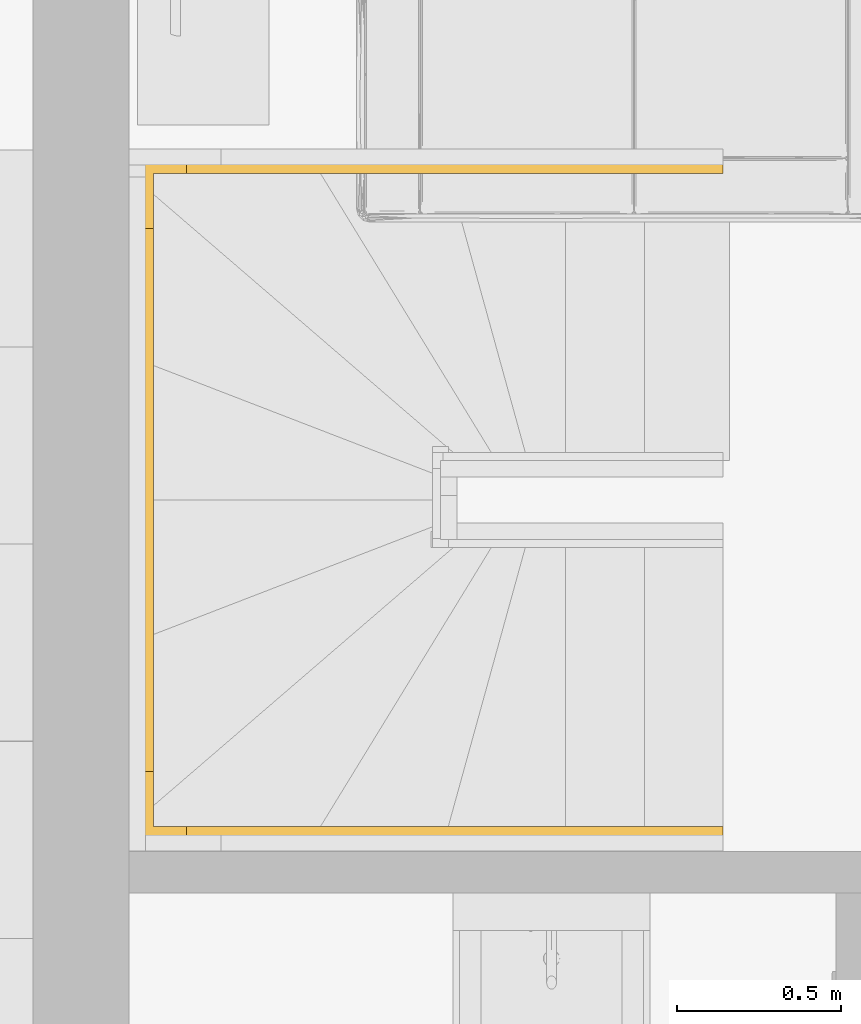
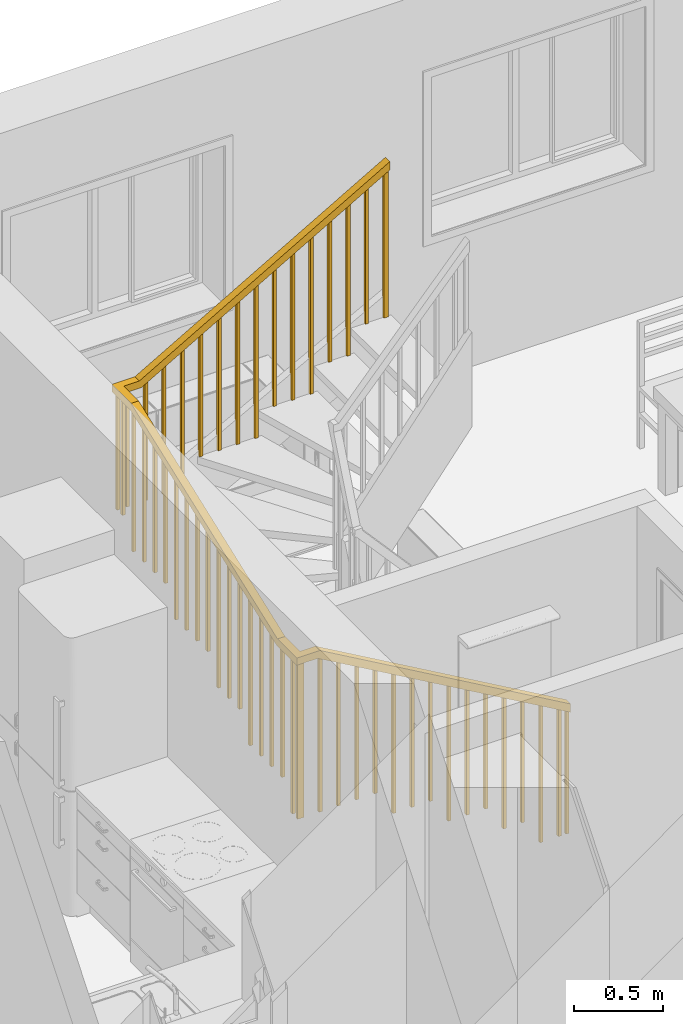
# One storey, part 25 of 65: 1 railing, 1 element without a shape of its own.
"""IFC2X3 building model written with IfcOpenShell, lengths in millimetres."""

from ifc_helpers import new_model, entity, si_unit, converted_unit, direction, frame, origin, place, context, subcontext, project, spatial, faceted_brep, material, type_object, element, aggregate, save


model = new_model("IFC2X3")

# Units and contexts
model_context = context("Model", 3, precision=0.01, world=origin(), true_north=direction((0.0, 1.0)))
body_context = subcontext(model_context, "Body", "Model", "MODEL_VIEW")
ifc_project = project(units=[si_unit("LENGTHUNIT", "METRE", prefix="MILLI"), si_unit("AREAUNIT", "SQUARE_METRE"), si_unit("VOLUMEUNIT", "CUBIC_METRE"), converted_unit("PLANEANGLEUNIT", "DEGREE", entity("IfcPlaneAngleMeasure", 0.017453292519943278), si_unit("PLANEANGLEUNIT", "RADIAN"), dimensions=[0, 0, 0, 0, 0, 0, 0])], contexts=[model_context])

# Site, building, storey
site_placement = place(None, origin())
site = spatial("IfcSite", under=ifc_project, at=site_placement, Name="Default", CompositionType="ELEMENT")
building_placement = place(site_placement, origin())
building = spatial("IfcBuilding", under=site, at=building_placement, CompositionType="ELEMENT")
storey_placement = place(building_placement, origin())
storey = spatial("IfcBuildingStorey", under=building, at=storey_placement, Name="Et. 1", CompositionType="ELEMENT", Elevation=0.0)

# Stair, railing
type_product = type_object("IfcTypeProduct", Name="Assembled Stair:Tretrapp - Åpne trinn m/ vanger")
stair_placement = place(storey_placement, origin())
stair = element("IfcStair", 1, at=stair_placement, inside=storey, type_object=type_product, Name="Assembled Stair:Stair", ShapeType="NOTDEFINED")
ifc_material = material(Name="Metall - Malt - MØRK GRÅ MATT")
railing_type = type_object("IfcRailingType", Name="Railing:900mm", PredefinedType="NOTDEFINED")
railing_placement = place(stair_placement, frame((16349.457407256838, 13245.55178763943, 178.73333333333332)))
railing = element("IfcRailing", 2, at=railing_placement, type_object=railing_type, material=ifc_material, Name="Railing:900mm", PredefinedType="NOTDEFINED", context=body_context, shape_type="Brep", body=[
    faceted_brep([(1755.0, 2054.1999999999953, 3334.94499683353), (1755.0, 2074.1999999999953, 3334.94499683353), (1755.0, 2074.1999999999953, 2323.5333333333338), (1755.0, 2054.1999999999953, 2323.5333333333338), (1775.0, 2074.1999999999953, 3346.4569725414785), (1775.0, 2074.1999999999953, 2323.5333333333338), (1775.0, 2054.1999999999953, 3346.4569725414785), (1775.0, 2054.1999999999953, 2323.5333333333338)], [[[0, 1, 2, 3]], [[1, 4, 5, 2]], [[4, 6, 7, 5]], [[3, 7, 6, 0]], [[0, 6, 4, 1]], [[2, 5, 7, 3]]]),
    faceted_brep([(1635.0, 2054.1999999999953, 3265.8731425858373), (1635.0, 2074.1999999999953, 3265.8731425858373), (1635.0, 2074.1999999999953, 2323.5333333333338), (1635.0, 2054.1999999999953, 2323.5333333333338), (1655.0, 2074.1999999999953, 3277.385118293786), (1655.0, 2074.1999999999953, 2323.5333333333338), (1655.0, 2054.1999999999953, 3277.385118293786), (1655.0, 2054.1999999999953, 2323.5333333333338)], [[[0, 1, 2, 3]], [[1, 4, 5, 2]], [[4, 6, 7, 5]], [[3, 7, 6, 0]], [[0, 6, 4, 1]], [[2, 5, 7, 3]]]),
    faceted_brep([(1515.0, 2054.1999999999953, 3196.801288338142), (1515.0, 2074.1999999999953, 3196.8012883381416), (1515.0, 2074.1999999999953, 2144.8), (1515.0, 2054.1999999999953, 2144.8000000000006), (1535.0, 2074.1999999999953, 3208.313264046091), (1535.0, 2074.1999999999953, 2144.8), (1535.0, 2054.1999999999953, 3208.313264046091), (1535.0, 2054.1999999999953, 2144.8)], [[[0, 1, 2, 3]], [[1, 4, 5, 2]], [[4, 6, 7, 5]], [[3, 7, 6, 0]], [[0, 6, 4, 1]], [[2, 5, 7, 3]]]),
    faceted_brep([(1395.0, 2054.199999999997, 3127.72943409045), (1395.0, 2074.199999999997, 3127.72943409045), (1395.0, 2074.199999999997, 2144.8000000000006), (1395.0, 2054.199999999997, 2144.8000000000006), (1415.0, 2074.199999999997, 3139.241409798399), (1415.0, 2074.199999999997, 2144.8000000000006), (1415.0, 2054.199999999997, 3139.241409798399), (1415.0, 2054.199999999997, 2144.8000000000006)], [[[0, 1, 2, 3]], [[1, 4, 5, 2]], [[4, 6, 7, 5]], [[3, 7, 6, 0]], [[0, 6, 4, 1]], [[2, 5, 7, 3]]]),
    faceted_brep([(1275.0, 2054.199999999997, 3058.6575798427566), (1275.0, 2074.199999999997, 3058.6575798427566), (1275.0, 2074.199999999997, 1966.0666666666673), (1275.0, 2054.199999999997, 1966.0666666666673), (1295.0, 2074.199999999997, 3070.169555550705), (1295.0, 2074.199999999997, 1966.0666666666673), (1295.0, 2054.199999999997, 3070.169555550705), (1295.0, 2054.199999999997, 1966.0666666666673)], [[[0, 1, 2, 3]], [[1, 4, 5, 2]], [[4, 6, 7, 5]], [[3, 7, 6, 0]], [[0, 6, 4, 1]], [[2, 5, 7, 3]]]),
    faceted_brep([(1155.0, 2054.199999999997, 2989.585725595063), (1155.0, 2074.199999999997, 2989.585725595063), (1155.0, 2074.199999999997, 1966.0666666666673), (1155.0, 2054.199999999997, 1966.0666666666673), (1175.0, 2074.199999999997, 3001.097701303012), (1175.0, 2074.199999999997, 1966.0666666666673), (1175.0, 2054.199999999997, 3001.097701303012), (1175.0, 2054.199999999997, 1966.0666666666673)], [[[0, 1, 2, 3]], [[1, 4, 5, 2]], [[4, 6, 7, 5]], [[3, 7, 6, 0]], [[0, 6, 4, 1]], [[2, 5, 7, 3]]]),
    faceted_brep([(1035.0, 2054.199999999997, 2920.5138713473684), (1035.0, 2074.199999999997, 2920.5138713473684), (1035.0, 2074.199999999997, 1966.0666666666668), (1035.0, 2054.199999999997, 1966.0666666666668), (1055.0, 2074.199999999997, 2932.0258470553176), (1055.0, 2074.199999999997, 1966.0666666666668), (1055.0, 2054.199999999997, 2932.0258470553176), (1055.0, 2054.199999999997, 1966.0666666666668)], [[[0, 1, 2, 3]], [[1, 4, 5, 2]], [[4, 6, 7, 5]], [[3, 7, 6, 0]], [[0, 6, 4, 1]], [[2, 5, 7, 3]]]),
    faceted_brep([(915.0, 2054.199999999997, 2851.4420170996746), (915.0, 2074.199999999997, 2851.4420170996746), (915.0, 2074.199999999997, 1787.3333333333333), (915.0, 2054.199999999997, 1787.3333333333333), (935.0, 2074.199999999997, 2862.953992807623), (935.0, 2074.199999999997, 1787.3333333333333), (935.0, 2054.199999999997, 2862.953992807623), (935.0, 2054.199999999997, 1787.3333333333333)], [[[0, 1, 2, 3]], [[1, 4, 5, 2]], [[4, 6, 7, 5]], [[3, 7, 6, 0]], [[0, 6, 4, 1]], [[2, 5, 7, 3]]]),
    faceted_brep([(795.0, 2054.2000000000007, 2782.3701628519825), (795.0, 2074.199999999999, 2782.3701628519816), (795.0, 2074.199999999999, 1787.333333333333), (795.0, 2054.2000000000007, 1787.333333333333), (815.0, 2074.199999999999, 2793.882138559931), (815.0, 2074.199999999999, 1787.333333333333), (815.0, 2054.2000000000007, 2793.882138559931), (815.0, 2054.2000000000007, 1787.333333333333)], [[[0, 1, 2, 3]], [[1, 4, 5, 2]], [[4, 6, 7, 5]], [[3, 7, 6, 0]], [[0, 6, 4, 1]], [[2, 5, 7, 3]]]),
    faceted_brep([(675.0, 2054.2000000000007, 2713.2983086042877), (675.0, 2074.199999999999, 2713.2983086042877), (675.0, 2074.199999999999, 1787.333333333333), (675.0, 2054.2000000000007, 1787.333333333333), (695.0, 2074.199999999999, 2724.810284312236), (695.0, 2074.199999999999, 1787.333333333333), (695.0, 2054.2000000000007, 2724.810284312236), (695.0, 2054.2000000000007, 1787.333333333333)], [[[0, 1, 2, 3]], [[1, 4, 5, 2]], [[4, 6, 7, 5]], [[3, 7, 6, 0]], [[0, 6, 4, 1]], [[2, 5, 7, 3]]]),
    faceted_brep([(555.0, 2054.2000000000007, 2644.226454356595), (555.0, 2074.199999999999, 2644.2264543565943), (555.0, 2074.199999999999, 1787.3333333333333), (555.0, 2054.2000000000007, 1787.3333333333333), (575.0, 2074.199999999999, 2655.7384300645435), (575.0, 2074.199999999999, 1787.3333333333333), (575.0, 2054.2000000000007, 2655.7384300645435), (575.0, 2054.2000000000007, 1787.3333333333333)], [[[0, 1, 2, 3]], [[1, 4, 5, 2]], [[4, 6, 7, 5]], [[3, 7, 6, 0]], [[0, 6, 4, 1]], [[2, 5, 7, 3]]]),
    faceted_brep([(435.0, 2054.2000000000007, 2575.1546001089), (435.0, 2074.199999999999, 2575.1546001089), (435.0, 2074.199999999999, 1608.5999999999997), (435.0, 2054.2000000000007, 1608.5999999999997), (455.0, 2074.199999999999, 2586.666575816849), (455.0, 2074.199999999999, 1608.5999999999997), (455.0, 2054.2000000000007, 2586.666575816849), (455.0, 2054.2000000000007, 1608.5999999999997)], [[[0, 1, 2, 3]], [[1, 4, 5, 2]], [[4, 6, 7, 5]], [[3, 7, 6, 0]], [[0, 6, 4, 1]], [[2, 5, 7, 3]]]),
    faceted_brep([(315.0, 2054.2000000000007, 2506.082745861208), (315.0, 2074.199999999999, 2506.0827458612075), (315.0, 2074.199999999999, 1608.5999999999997), (315.0, 2054.2000000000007, 1608.5999999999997), (335.0, 2074.199999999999, 2517.5947215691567), (335.0, 2074.199999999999, 1608.5999999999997), (335.0, 2054.2000000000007, 2517.5947215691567), (335.0, 2054.2000000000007, 1608.5999999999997)], [[[0, 1, 2, 3]], [[1, 4, 5, 2]], [[4, 6, 7, 5]], [[3, 7, 6, 0]], [[0, 6, 4, 1]], [[2, 5, 7, 3]]]),
    faceted_brep([(195.0, 2054.2000000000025, 2437.0108916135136), (195.0, 2074.2000000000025, 2437.0108916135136), (195.0, 2074.2000000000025, 1608.5999999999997), (195.0, 2054.2000000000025, 1608.5999999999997), (215.0, 2074.2000000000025, 2448.522867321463), (215.0, 2074.2000000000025, 1608.5999999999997), (215.0, 2054.2000000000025, 2448.522867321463), (215.0, 2054.2000000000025, 1608.5999999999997)], [[[0, 1, 2, 3]], [[1, 4, 5, 2]], [[4, 6, 7, 5]], [[3, 7, 6, 0]], [[0, 6, 4, 1]], [[2, 5, 7, 3]]]),
    faceted_brep([(75.0, 2054.2000000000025, 2411.399065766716), (75.0, 2074.2000000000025, 2411.399065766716), (75.0, 2074.2000000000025, 1608.5999999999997), (75.0, 2054.2000000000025, 1608.5999999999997), (95.0, 2074.2000000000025, 2411.399065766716), (95.0, 2074.2000000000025, 1608.5999999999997), (95.0, 2054.2000000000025, 2411.399065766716), (95.0, 2054.2000000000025, 1608.5999999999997)], [[[0, 1, 2, 3]], [[1, 4, 5, 2]], [[4, 6, 7, 5]], [[3, 7, 6, 0]], [[0, 6, 4, 1]], [[2, 5, 7, 3]]]),
    faceted_brep([(35.0, 1995.0, 2411.399065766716), (15.0, 1995.0, 2411.399065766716), (15.0, 1995.0, 1608.5999999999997), (35.0, 1995.0, 1608.5999999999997), (15.0, 2015.0, 2411.399065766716), (15.0, 2015.0, 1608.5999999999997), (35.0, 2015.0, 2411.399065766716), (35.0, 2015.0, 1608.5999999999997)], [[[0, 1, 2, 3]], [[1, 4, 5, 2]], [[4, 6, 7, 5]], [[3, 7, 6, 0]], [[0, 6, 4, 1]], [[2, 5, 7, 3]]]),
    faceted_brep([(35.0, 1875.0, 2411.399065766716), (15.0, 1875.0, 2411.399065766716), (15.0, 1875.0, 1429.866666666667), (35.0, 1875.0, 1429.866666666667), (15.0, 1895.0, 2411.399065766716), (15.0, 1895.0, 1429.866666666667), (35.0, 1895.0, 2411.399065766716), (35.0, 1895.0, 1429.866666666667)], [[[0, 1, 2, 3]], [[1, 4, 5, 2]], [[4, 6, 7, 5]], [[3, 7, 6, 0]], [[0, 6, 4, 1]], [[2, 5, 7, 3]]]),
    faceted_brep([(35.0, 1755.0, 2367.6418164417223), (15.0, 1755.0, 2367.6418164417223), (15.0, 1755.0, 1429.8666666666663), (35.0, 1755.0, 1429.8666666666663), (15.0, 1775.0, 2375.144870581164), (15.0, 1775.0, 1429.8666666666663), (35.0, 1775.0, 2375.144870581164), (35.0, 1775.0, 1429.8666666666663)], [[[0, 1, 2, 3]], [[1, 4, 5, 2]], [[4, 6, 7, 5]], [[3, 7, 6, 0]], [[0, 6, 4, 1]], [[2, 5, 7, 3]]]),
    faceted_brep([(35.0, 1635.0, 2322.6234916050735), (15.0, 1635.0, 2322.6234916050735), (15.0, 1635.0, 1429.866666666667), (35.0, 1635.0, 1429.866666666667), (15.0, 1655.0, 2330.126545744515), (15.0, 1655.0, 1429.866666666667), (35.0, 1655.0, 2330.126545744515), (35.0, 1655.0, 1429.866666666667)], [[[0, 1, 2, 3]], [[1, 4, 5, 2]], [[4, 6, 7, 5]], [[3, 7, 6, 0]], [[0, 6, 4, 1]], [[2, 5, 7, 3]]]),
    faceted_brep([(35.0, 1515.0, 2277.605166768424), (15.0, 1515.0, 2277.605166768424), (15.0, 1515.0, 1429.8666666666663), (35.0, 1515.0, 1429.8666666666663), (15.0, 1535.0, 2285.1082209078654), (15.0, 1535.0, 1429.8666666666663), (35.0, 1535.0, 2285.1082209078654), (35.0, 1535.0, 1429.8666666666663)], [[[0, 1, 2, 3]], [[1, 4, 5, 2]], [[4, 6, 7, 5]], [[3, 7, 6, 0]], [[0, 6, 4, 1]], [[2, 5, 7, 3]]]),
    faceted_brep([(35.0, 1395.0, 2232.5868419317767), (15.0, 1395.0, 2232.5868419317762), (15.0, 1395.0, 1251.1333333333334), (35.0, 1395.0, 1251.1333333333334), (15.0, 1415.0, 2240.089896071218), (15.0, 1415.0, 1251.1333333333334), (35.0, 1415.0, 2240.089896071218), (35.0, 1415.0, 1251.1333333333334)], [[[0, 1, 2, 3]], [[1, 4, 5, 2]], [[4, 6, 7, 5]], [[3, 7, 6, 0]], [[0, 6, 4, 1]], [[2, 5, 7, 3]]]),
    faceted_brep([(35.0, 1275.0, 2187.5685170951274), (15.0, 1275.0, 2187.5685170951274), (15.0, 1275.0, 1251.1333333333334), (35.0, 1275.0, 1251.1333333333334), (15.0, 1295.0, 2195.071571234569), (15.0, 1295.0, 1251.1333333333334), (35.0, 1295.0, 2195.071571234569), (35.0, 1295.0, 1251.1333333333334)], [[[0, 1, 2, 3]], [[1, 4, 5, 2]], [[4, 6, 7, 5]], [[3, 7, 6, 0]], [[0, 6, 4, 1]], [[2, 5, 7, 3]]]),
    faceted_brep([(35.0, 1155.0, 2142.5501922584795), (15.0, 1155.0, 2142.550192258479), (15.0, 1155.0, 1251.1333333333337), (35.0, 1155.0, 1251.1333333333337), (15.0, 1175.0, 2150.0532463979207), (15.0, 1175.0, 1251.1333333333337), (35.0, 1175.0, 2150.0532463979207), (35.0, 1175.0, 1251.1333333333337)], [[[0, 1, 2, 3]], [[1, 4, 5, 2]], [[4, 6, 7, 5]], [[3, 7, 6, 0]], [[0, 6, 4, 1]], [[2, 5, 7, 3]]]),
    faceted_brep([(35.0, 1035.0, 2097.53186742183), (15.0, 1035.0, 2097.53186742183), (15.0, 1035.0, 1251.1333333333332), (35.0, 1035.0, 1251.1333333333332), (15.0, 1055.0, 2105.034921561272), (15.0, 1055.0, 1251.1333333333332), (35.0, 1055.0, 2105.034921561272), (35.0, 1055.0, 1251.1333333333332)], [[[0, 1, 2, 3]], [[1, 4, 5, 2]], [[4, 6, 7, 5]], [[3, 7, 6, 0]], [[0, 6, 4, 1]], [[2, 5, 7, 3]]]),
    faceted_brep([(35.0, 915.0, 2052.5135425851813), (15.0, 915.0, 2052.5135425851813), (15.0, 915.0, 1072.3999999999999), (35.0, 915.0, 1072.3999999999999), (15.0, 935.0, 2060.0165967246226), (15.0, 935.0, 1072.3999999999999), (35.0, 935.0, 2060.0165967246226), (35.0, 935.0, 1072.3999999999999)], [[[0, 1, 2, 3]], [[1, 4, 5, 2]], [[4, 6, 7, 5]], [[3, 7, 6, 0]], [[0, 6, 4, 1]], [[2, 5, 7, 3]]]),
    faceted_brep([(35.0, 795.0, 2007.4952177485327), (15.0, 795.0, 2007.4952177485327), (15.0, 795.0, 1072.4), (35.0, 795.0, 1072.4), (15.0, 815.0, 2014.998271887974), (15.0, 815.0, 1072.4), (35.0, 815.0, 2014.998271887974), (35.0, 815.0, 1072.4)], [[[0, 1, 2, 3]], [[1, 4, 5, 2]], [[4, 6, 7, 5]], [[3, 7, 6, 0]], [[0, 6, 4, 1]], [[2, 5, 7, 3]]]),
    faceted_brep([(35.0, 675.0, 1962.4768929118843), (15.0, 675.0, 1962.4768929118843), (15.0, 675.0, 1072.4), (35.0, 675.0, 1072.4), (15.0, 695.0, 1969.9799470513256), (15.0, 695.0, 1072.4), (35.0, 695.0, 1969.9799470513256), (35.0, 695.0, 1072.4)], [[[0, 1, 2, 3]], [[1, 4, 5, 2]], [[4, 6, 7, 5]], [[3, 7, 6, 0]], [[0, 6, 4, 1]], [[2, 5, 7, 3]]]),
    faceted_brep([(35.0, 555.0, 1917.4585680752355), (15.0, 555.0, 1917.4585680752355), (15.0, 555.0, 893.6666666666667), (35.0, 555.0, 893.6666666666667), (15.0, 575.0, 1924.9616222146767), (15.0, 575.0, 893.6666666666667), (35.0, 575.0, 1924.9616222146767), (35.0, 575.0, 893.6666666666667)], [[[0, 1, 2, 3]], [[1, 4, 5, 2]], [[4, 6, 7, 5]], [[3, 7, 6, 0]], [[0, 6, 4, 1]], [[2, 5, 7, 3]]]),
    faceted_brep([(35.0, 435.0, 1872.4402432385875), (15.0, 435.0, 1872.4402432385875), (15.0, 435.0, 893.666666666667), (35.0, 435.0, 893.666666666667), (15.0, 455.0, 1879.9432973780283), (15.0, 455.0, 893.666666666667), (35.0, 455.0, 1879.9432973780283), (35.0, 455.0, 893.666666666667)], [[[0, 1, 2, 3]], [[1, 4, 5, 2]], [[4, 6, 7, 5]], [[3, 7, 6, 0]], [[0, 6, 4, 1]], [[2, 5, 7, 3]]]),
    faceted_brep([(35.0, 315.0, 1827.4219184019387), (15.0, 315.0, 1827.4219184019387), (15.0, 315.0, 893.6666666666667), (35.0, 315.0, 893.6666666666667), (15.0, 335.0, 1834.92497254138), (15.0, 335.0, 893.6666666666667), (35.0, 335.0, 1834.92497254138), (35.0, 335.0, 893.6666666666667)], [[[0, 1, 2, 3]], [[1, 4, 5, 2]], [[4, 6, 7, 5]], [[3, 7, 6, 0]], [[0, 6, 4, 1]], [[2, 5, 7, 3]]]),
    faceted_brep([(35.0, 195.0, 1790.8676010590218), (15.0, 195.0, 1790.867601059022), (15.0, 195.0, 893.6666666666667), (35.0, 195.0, 893.6666666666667), (15.0, 215.0, 1790.867601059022), (15.0, 215.0, 893.6666666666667), (35.0, 215.0, 1790.867601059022), (35.0, 215.0, 893.6666666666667)], [[[0, 1, 2, 3]], [[1, 4, 5, 2]], [[4, 6, 7, 5]], [[3, 7, 6, 0]], [[0, 6, 4, 1]], [[2, 5, 7, 3]]]),
    faceted_brep([(35.0, 75.0, 1790.8676010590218), (15.0, 75.0, 1790.8676010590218), (15.0, 75.0, 714.9333333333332), (35.0, 75.0, 714.9333333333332), (15.0, 95.0, 1790.8676010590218), (15.0, 95.0, 714.9333333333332), (35.0, 95.0, 1790.8676010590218), (35.0, 95.0, 714.9333333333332)], [[[0, 1, 2, 3]], [[1, 4, 5, 2]], [[4, 6, 7, 5]], [[3, 7, 6, 0]], [[0, 6, 4, 1]], [[2, 5, 7, 3]]]),
    faceted_brep([(55.09330515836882, 35.0, 1790.8676010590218), (55.09330515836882, 15.0, 1790.8676010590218), (55.09330515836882, 15.0, 714.9333333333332), (55.09330515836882, 35.0, 714.9333333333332), (35.09330515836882, 15.0, 1790.8676010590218), (35.09330515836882, 15.0, 714.9333333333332), (35.09330515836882, 35.0, 1790.8676010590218), (35.09330515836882, 35.0, 714.9333333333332)], [[[0, 1, 2, 3]], [[1, 4, 5, 2]], [[4, 6, 7, 5]], [[3, 7, 6, 0]], [[0, 6, 4, 1]], [[2, 5, 7, 3]]]),
    faceted_brep([(175.09330515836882, 35.0, 1776.7140445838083), (175.09330515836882, 15.0, 1776.7140445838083), (175.09330515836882, 15.0, 714.9333333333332), (175.09330515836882, 35.0, 714.9333333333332), (155.09330515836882, 15.0, 1788.2260202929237), (155.09330515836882, 15.0, 714.9333333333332), (155.09330515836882, 35.0, 1788.2260202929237), (155.09330515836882, 35.0, 714.9333333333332)], [[[0, 1, 2, 3]], [[1, 4, 5, 2]], [[4, 6, 7, 5]], [[3, 7, 6, 0]], [[0, 6, 4, 1]], [[2, 5, 7, 3]]]),
    faceted_brep([(295.09330515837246, 35.0, 1707.642190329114), (295.09330515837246, 15.0, 1707.642190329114), (295.09330515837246, 15.0, 714.9333333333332), (295.09330515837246, 35.0, 714.9333333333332), (275.09330515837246, 15.0, 1719.15416603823), (275.09330515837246, 15.0, 714.9333333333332), (275.09330515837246, 35.0, 1719.15416603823), (275.09330515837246, 35.0, 714.9333333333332)], [[[0, 1, 2, 3]], [[1, 4, 5, 2]], [[4, 6, 7, 5]], [[3, 7, 6, 0]], [[0, 6, 4, 1]], [[2, 5, 7, 3]]]),
    faceted_brep([(415.0933051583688, 35.0, 1638.5703360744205), (415.0933051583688, 15.0, 1638.5703360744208), (415.0933051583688, 15.0, 714.9333333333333), (415.0933051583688, 35.0, 714.9333333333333), (395.0933051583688, 15.0, 1650.0823117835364), (395.0933051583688, 15.0, 714.9333333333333), (395.0933051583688, 35.0, 1650.0823117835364), (395.0933051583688, 35.0, 714.9333333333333)], [[[0, 1, 2, 3]], [[1, 4, 5, 2]], [[4, 6, 7, 5]], [[3, 7, 6, 0]], [[0, 6, 4, 1]], [[2, 5, 7, 3]]]),
    faceted_brep([(535.0933051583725, 35.0, 1569.4984818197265), (535.0933051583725, 15.0, 1569.4984818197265), (535.0933051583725, 15.0, 714.9333333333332), (535.0933051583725, 35.0, 714.9333333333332), (515.0933051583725, 15.0, 1581.010457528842), (515.0933051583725, 15.0, 714.9333333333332), (515.0933051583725, 35.0, 1581.010457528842), (515.0933051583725, 35.0, 714.9333333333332)], [[[0, 1, 2, 3]], [[1, 4, 5, 2]], [[4, 6, 7, 5]], [[3, 7, 6, 0]], [[0, 6, 4, 1]], [[2, 5, 7, 3]]]),
    faceted_brep([(655.0933051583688, 35.0, 1500.4266275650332), (655.0933051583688, 15.0, 1500.426627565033), (655.0933051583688, 15.0, 536.1999999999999), (655.0933051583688, 35.0, 536.1999999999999), (635.0933051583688, 15.0, 1511.9386032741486), (635.0933051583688, 15.0, 536.1999999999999), (635.0933051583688, 35.0, 1511.9386032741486), (635.0933051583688, 35.0, 536.1999999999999)], [[[0, 1, 2, 3]], [[1, 4, 5, 2]], [[4, 6, 7, 5]], [[3, 7, 6, 0]], [[0, 6, 4, 1]], [[2, 5, 7, 3]]]),
    faceted_brep([(775.0933051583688, 35.0, 1431.3547733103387), (775.0933051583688, 15.0, 1431.3547733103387), (775.0933051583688, 15.0, 536.2), (775.0933051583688, 35.0, 536.2), (755.0933051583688, 15.0, 1442.8667490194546), (755.0933051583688, 15.0, 536.2), (755.0933051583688, 35.0, 1442.8667490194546), (755.0933051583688, 35.0, 536.2)], [[[0, 1, 2, 3]], [[1, 4, 5, 2]], [[4, 6, 7, 5]], [[3, 7, 6, 0]], [[0, 6, 4, 1]], [[2, 5, 7, 3]]]),
    faceted_brep([(895.0933051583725, 35.0, 1362.2829190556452), (895.0933051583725, 15.0, 1362.282919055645), (895.0933051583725, 15.0, 536.1999999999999), (895.0933051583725, 35.0, 536.1999999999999), (875.0933051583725, 15.0, 1373.7948947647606), (875.0933051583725, 15.0, 536.1999999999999), (875.0933051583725, 35.0, 1373.7948947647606), (875.0933051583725, 35.0, 536.1999999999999)], [[[0, 1, 2, 3]], [[1, 4, 5, 2]], [[4, 6, 7, 5]], [[3, 7, 6, 0]], [[0, 6, 4, 1]], [[2, 5, 7, 3]]]),
    faceted_brep([(1015.0933051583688, 35.0, 1293.2110648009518), (1015.0933051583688, 15.0, 1293.2110648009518), (1015.0933051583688, 15.0, 357.4666666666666), (1015.0933051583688, 35.0, 357.4666666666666), (995.0933051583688, 15.0, 1304.7230405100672), (995.0933051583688, 15.0, 357.4666666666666), (995.0933051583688, 35.0, 1304.7230405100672), (995.0933051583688, 35.0, 357.4666666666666)], [[[0, 1, 2, 3]], [[1, 4, 5, 2]], [[4, 6, 7, 5]], [[3, 7, 6, 0]], [[0, 6, 4, 1]], [[2, 5, 7, 3]]]),
    faceted_brep([(1135.0933051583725, 35.0, 1224.1392105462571), (1135.0933051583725, 15.0, 1224.139210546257), (1135.0933051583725, 15.0, 357.4666666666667), (1135.0933051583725, 35.0, 357.4666666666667), (1115.0933051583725, 15.0, 1235.6511862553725), (1115.0933051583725, 15.0, 357.4666666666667), (1115.0933051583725, 35.0, 1235.6511862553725), (1115.0933051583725, 35.0, 357.4666666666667)], [[[0, 1, 2, 3]], [[1, 4, 5, 2]], [[4, 6, 7, 5]], [[3, 7, 6, 0]], [[0, 6, 4, 1]], [[2, 5, 7, 3]]]),
    faceted_brep([(1255.0933051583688, 35.0, 1155.0673562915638), (1255.0933051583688, 15.0, 1155.067356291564), (1255.0933051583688, 15.0, 357.4666666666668), (1255.0933051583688, 35.0, 357.4666666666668), (1235.0933051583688, 15.0, 1166.5793320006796), (1235.0933051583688, 15.0, 357.4666666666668), (1235.0933051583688, 35.0, 1166.5793320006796), (1235.0933051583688, 35.0, 357.4666666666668)], [[[0, 1, 2, 3]], [[1, 4, 5, 2]], [[4, 6, 7, 5]], [[3, 7, 6, 0]], [[0, 6, 4, 1]], [[2, 5, 7, 3]]]),
    faceted_brep([(1375.0933051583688, 35.0, 1085.99550203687), (1375.0933051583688, 15.0, 1085.99550203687), (1375.0933051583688, 15.0, 178.73333333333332), (1375.0933051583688, 35.0, 178.73333333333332), (1355.0933051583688, 15.0, 1097.5074777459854), (1355.0933051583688, 15.0, 178.73333333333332), (1355.0933051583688, 35.0, 1097.5074777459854), (1355.0933051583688, 35.0, 178.73333333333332)], [[[0, 1, 2, 3]], [[1, 4, 5, 2]], [[4, 6, 7, 5]], [[3, 7, 6, 0]], [[0, 6, 4, 1]], [[2, 5, 7, 3]]]),
    faceted_brep([(1495.0933051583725, 35.0, 1016.9236477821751), (1495.0933051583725, 15.0, 1016.9236477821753), (1495.0933051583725, 15.0, 178.73333333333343), (1495.0933051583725, 35.0, 178.73333333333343), (1475.0933051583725, 15.0, 1028.435623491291), (1475.0933051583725, 15.0, 178.73333333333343), (1475.0933051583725, 35.0, 1028.435623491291), (1475.0933051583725, 35.0, 178.73333333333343)], [[[0, 1, 2, 3]], [[1, 4, 5, 2]], [[4, 6, 7, 5]], [[3, 7, 6, 0]], [[0, 6, 4, 1]], [[2, 5, 7, 3]]]),
    faceted_brep([(1615.0933051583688, 35.0, 947.8517935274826), (1615.0933051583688, 15.0, 947.8517935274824), (1615.0933051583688, 15.0, 0.0), (1615.0933051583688, 35.0, 0.0), (1595.0933051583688, 15.0, 959.363769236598), (1595.0933051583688, 15.0, 0.0), (1595.0933051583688, 35.0, 959.363769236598), (1595.0933051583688, 35.0, 0.0)], [[[0, 1, 2, 3]], [[1, 4, 5, 2]], [[4, 6, 7, 5]], [[3, 7, 6, 0]], [[0, 6, 4, 1]], [[2, 5, 7, 3]]]),
    faceted_brep([(1735.0933051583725, 35.0, 878.7799392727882), (1735.0933051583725, 15.0, 878.7799392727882), (1735.0933051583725, 15.0, 0.0), (1735.0933051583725, 35.0, 0.0), (1715.0933051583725, 15.0, 890.2919149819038), (1715.0933051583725, 15.0, 0.0), (1715.0933051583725, 35.0, 890.2919149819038), (1715.0933051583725, 35.0, 0.0)], [[[0, 1, 2, 3]], [[1, 4, 5, 2]], [[4, 6, 7, 5]], [[3, 7, 6, 0]], [[0, 6, 4, 1]], [[2, 5, 7, 3]]]),
    faceted_brep([(35.0, 2054.2000000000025, 2411.399065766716), (15.0, 2054.2000000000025, 2411.399065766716), (15.0, 2054.2000000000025, 1608.5999999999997), (35.0, 2054.2000000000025, 1608.5999999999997), (15.0, 2074.2000000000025, 2411.399065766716), (15.0, 2074.2000000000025, 1608.5999999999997), (35.0, 2074.2000000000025, 2411.399065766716), (35.0, 2074.2000000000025, 1608.5999999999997)], [[[0, 1, 2, 3]], [[1, 4, 5, 2]], [[4, 6, 7, 5]], [[3, 7, 6, 0]], [[0, 6, 4, 1]], [[2, 5, 7, 3]]]),
    faceted_brep([(35.0, 35.0, 1790.8676010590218), (35.0, 15.0, 1790.8676010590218), (35.0, 15.0, 714.9333333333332), (35.0, 35.0, 714.9333333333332), (15.0, 15.0, 1790.8676010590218), (15.0, 15.0, 714.9333333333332), (15.0, 35.0, 1790.8676010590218), (15.0, 35.0, 714.9333333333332)], [[[0, 1, 2, 3]], [[1, 4, 5, 2]], [[4, 6, 7, 5]], [[3, 7, 6, 0]], [[0, 6, 4, 1]], [[2, 5, 7, 3]]]),
    faceted_brep([(1765.093305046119, 2054.1999999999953, 3340.7546909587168), (1765.093305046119, 2074.1999999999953, 3340.7546909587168), (1765.093305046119, 2074.1999999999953, 2323.5333333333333), (1765.093305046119, 2054.1999999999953, 2323.5333333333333), (1785.093305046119, 2074.1999999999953, 3352.266666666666), (1785.093305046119, 2074.1999999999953, 2323.5333333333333), (1785.093305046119, 2054.1999999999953, 3352.266666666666), (1785.093305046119, 2054.1999999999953, 2323.5333333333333)], [[[0, 1, 2, 3]], [[1, 4, 5, 2]], [[4, 6, 7, 5]], [[3, 7, 6, 0]], [[0, 6, 4, 1]], [[2, 5, 7, 3]]]),
    faceted_brep([(1785.0933051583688, 35.0, 850.0), (1785.0933051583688, 15.0, 850.0), (1785.0933051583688, 15.0, 0.0), (1785.0933051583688, 35.0, 0.0), (1765.0933051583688, 15.0, 861.5119757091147), (1765.0933051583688, 15.0, 0.0), (1765.0933051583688, 35.0, 861.5119757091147), (1765.0933051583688, 35.0, 0.0)], [[[0, 1, 2, 3]], [[1, 4, 5, 2]], [[4, 6, 7, 5]], [[3, 7, 6, 0]], [[0, 6, 4, 1]], [[2, 5, 7, 3]]]),
    faceted_brep([(1785.0933051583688, 0.0, 900.0), (1785.0933051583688, 0.0, 842.3087103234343), (1785.0933051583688, 50.0, 842.3087103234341), (1785.0933051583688, 50.0, 900.0), (150.50403076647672, 0.0, 1840.8676010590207), (137.14178979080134, 0.0, 1790.867601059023), (137.14178979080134, 50.0, 1790.8676010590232), (150.50403076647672, 50.0, 1840.8676010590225), (50.0, 0.0, 1840.8676010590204), (50.0, 50.0, 1840.8676010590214), (50.0, 50.0, 1790.8676010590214), (50.0, 0.0, 1790.8676010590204)], [[[0, 1, 2, 3]], [[1, 0, 4, 5]], [[2, 1, 5, 6]], [[3, 2, 6, 7]], [[0, 3, 7, 4]], [[8, 9, 10, 11]], [[5, 4, 8, 11]], [[6, 5, 11, 10]], [[7, 6, 10, 9]], [[4, 7, 9, 8]]]),
    faceted_brep([(0.0, 0.0, 1840.867601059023), (0.0, 0.0, 1790.867601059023), (50.0, 0.0, 1790.867601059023), (50.0, 0.0, 1840.867601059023), (0.0, 217.56149918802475, 1840.8676010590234), (0.0, 226.63168520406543, 1790.8676010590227), (50.0, 226.63168520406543, 1790.8676010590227), (50.0, 217.56149918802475, 1840.867601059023), (0.0, 1871.6385008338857, 2461.3990657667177), (0.0, 1880.7086868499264, 2411.399065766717), (50.0, 1880.7086868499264, 2411.399065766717), (50.0, 1871.6385008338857, 2461.399065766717), (0.0, 2039.2000000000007, 2461.3990657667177), (50.0, 2039.2000000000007, 2461.3990657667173), (50.0, 2039.2000000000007, 2411.3990657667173), (0.0, 2039.2000000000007, 2411.3990657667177)], [[[0, 1, 2, 3]], [[1, 0, 4, 5]], [[2, 1, 5, 6]], [[3, 2, 6, 7]], [[0, 3, 7, 4]], [[5, 4, 8, 9]], [[6, 5, 9, 10]], [[7, 6, 10, 11]], [[4, 7, 11, 8]], [[12, 13, 14, 15]], [[9, 8, 12, 15]], [[10, 9, 15, 14]], [[11, 10, 14, 13]], [[8, 11, 13, 12]]]),
    faceted_brep([(0.0, 2089.2000000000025, 2461.399065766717), (0.0, 2089.2000000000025, 2411.399065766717), (0.0, 2039.2000000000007, 2411.399065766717), (0.0, 2039.2000000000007, 2461.399065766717), (150.50403076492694, 2089.2000000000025, 2461.3990657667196), (163.86627173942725, 2089.2000000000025, 2411.399065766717), (163.86627173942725, 2039.2000000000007, 2411.399065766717), (150.50403076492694, 2039.2000000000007, 2461.399065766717), (1785.093305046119, 2089.1999999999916, 3402.2666666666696), (1785.093305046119, 2039.1999999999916, 3402.2666666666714), (1785.093305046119, 2039.1999999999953, 3344.57537699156), (1785.093305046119, 2089.1999999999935, 3344.575376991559)], [[[0, 1, 2, 3]], [[1, 0, 4, 5]], [[2, 1, 5, 6]], [[3, 2, 6, 7]], [[0, 3, 7, 4]], [[8, 9, 10, 11]], [[5, 4, 8, 11]], [[6, 5, 11, 10]], [[7, 6, 10, 9]], [[4, 7, 9, 8]]]),
])
aggregate(stair, [railing])

save(model, "model.ifc")
